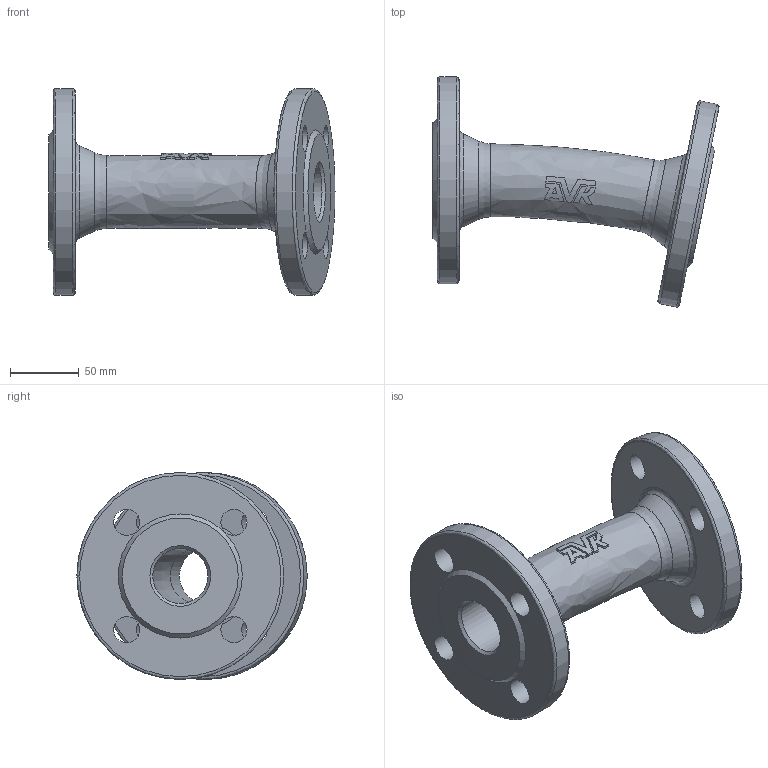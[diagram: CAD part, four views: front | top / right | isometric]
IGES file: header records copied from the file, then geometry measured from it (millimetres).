
Start section: SolidWorks IGES file using analytic representation for surfaces
Global section: file name: \\avksan2\techshare\PBM outline export from Enovia\O_712_0110_DN40_1X_REV01.igs; native system: SolidWorks 2022; preprocessor: SolidWorks 2022; author: pbm; date: 240815.093111; units: millimetre
Bounding box: 207.48 x 167 x 150 mm (x, y, z)
Surface area: 130598.1 mm2 (no closed solid volume)
Topology: 0 solids, 0 shells, 75 faces, 345 edges, 317 vertices
Faces by surface type: bspline 43, revolution 32
